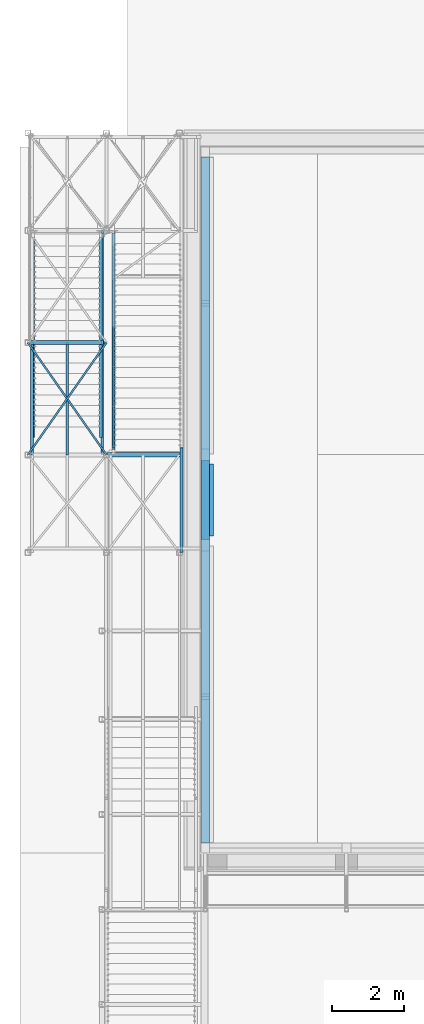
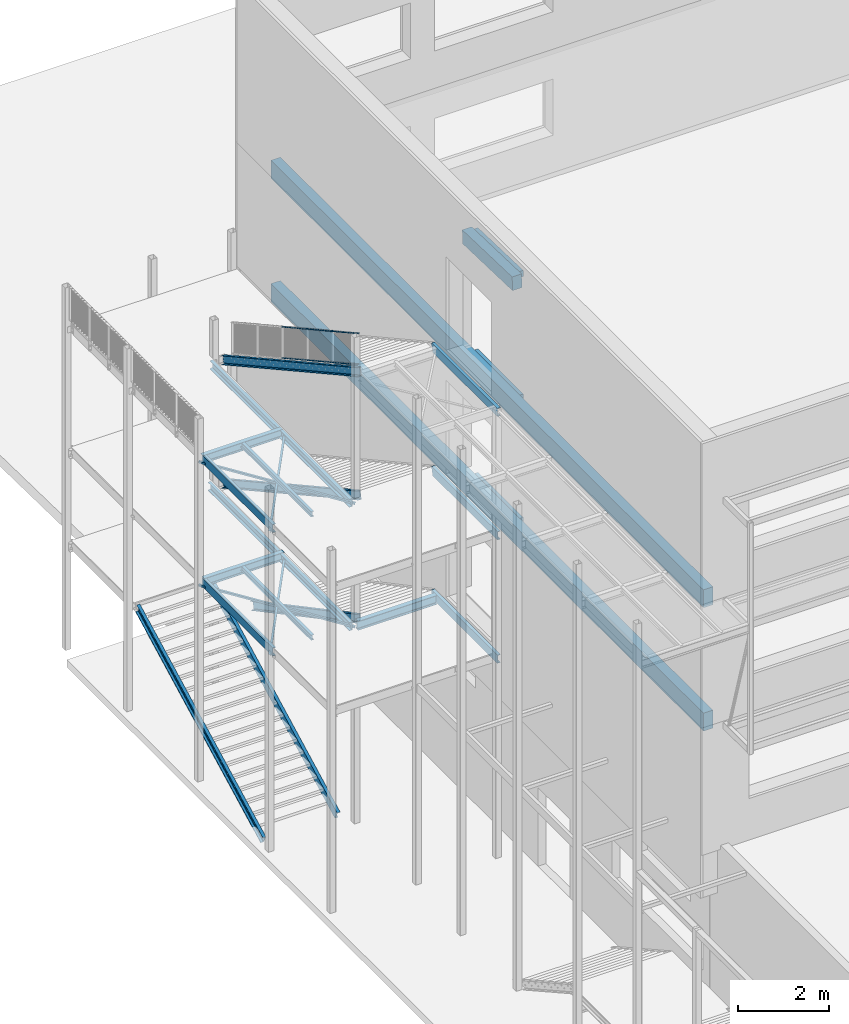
# One storey, part 26 of 78: 22 beams, 9 members, 28 elements without a shape of their own.
"""IFC2X3 building model written with IfcOpenShell, lengths in millimetres."""

from ifc_helpers import new_model, si_unit, frame, origin_with_axes, origin_2d_with_axis, place, context, subcontext, project, spatial, polyline, rectangle, i_section, l_section, u_section, outline, extrude, boolean, clip, halfspace, material, type_object, element, aggregate, save


model = new_model("IFC2X3")

# Units and contexts
model_context = context("Model", 3, precision=1e-05, world=origin_with_axes())
body_context = subcontext(model_context, "Body", "Model", "MODEL_VIEW")
ifc_project = project(units=[si_unit("LENGTHUNIT", "METRE", prefix="MILLI"), si_unit("AREAUNIT", "SQUARE_METRE"), si_unit("VOLUMEUNIT", "CUBIC_METRE"), si_unit("MASSUNIT", "GRAM", prefix="KILO"), si_unit("TIMEUNIT", "SECOND"), si_unit("PLANEANGLEUNIT", "RADIAN"), si_unit("SOLIDANGLEUNIT", "STERADIAN"), si_unit("THERMODYNAMICTEMPERATUREUNIT", "DEGREE_CELSIUS"), si_unit("LUMINOUSINTENSITYUNIT", "LUMEN")], contexts=[model_context])

# Site, building, storey
site_placement = place(None, origin_with_axes())
site = spatial("IfcSite", under=ifc_project, at=site_placement, Name="Site", CompositionType="ELEMENT")
building_placement = place(site_placement, origin_with_axes())
building = spatial("IfcBuilding", under=site, at=building_placement, Name="Undefined", CompositionType="ELEMENT")
storey_placement = place(building_placement, origin_with_axes())
storey = spatial("IfcBuildingStorey", under=building, at=storey_placement, Name="Undefined", CompositionType="ELEMENT", Elevation=0.0)

# Assembly, beam
assembly_1_placement = place(storey_placement, origin_with_axes())
assembly_1 = element("IfcElementAssembly", 1, at=assembly_1_placement, inside=storey, AssemblyPlace="NOTDEFINED", PredefinedType="RIGID_FRAME")
ifc_material_1 = material(Name="STEEL/S235JR")
beam_type_1 = type_object("IfcBeamType", Name="UPN220", PredefinedType="NOTDEFINED")
beam_1_placement = place(assembly_1_placement, frame((-31142.8599999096, 1207.9999998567, 156560.039999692), z_axis=(0.0, 0.0, 1.0), x_axis=(0.0, 1.0, 0.0)))
beam_1 = element("IfcBeam", 2, at=beam_1_placement, type_object=beam_type_1, material=ifc_material_1, Name="LIMON", ObjectType="UPN220", context=body_context, shape_type="Clipping", body=[
    clip(extrude(u_section(Depth=220.0, FlangeWidth=80.0, WebThickness=9.0, FlangeThickness=12.5, FilletRadius=12.5, EdgeRadius=6.5, FlangeSlope=0.0798299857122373, at=origin_2d_with_axis()), frame((2894.56944010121, 0.0, 0.0), z_axis=(-1.0, 0.0, 0.0), x_axis=(0.0, -1.0, 0.0)), (0.0, 0.0, 1.0), 2894.57), halfspace(frame((2894.28571429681, -39.9999997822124, 110.000000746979), z_axis=(-0.968308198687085, 0.0, 0.249758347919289), x_axis=(0.0, -1.0, 0.0)), True)),
])
aggregate(assembly_1, [beam_1])

assembly_2_placement = place(storey_placement, origin_with_axes())
assembly_2 = element("IfcElementAssembly", 3, at=assembly_2_placement, inside=storey, AssemblyPlace="NOTDEFINED", PredefinedType="RIGID_FRAME")
beam_2_placement = place(assembly_2_placement, frame((-31142.8599999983, 1207.99999985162, 159860.039999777), z_axis=(0.0, 0.0, 1.0), x_axis=(0.0, 1.0, 0.0)))
beam_2 = element("IfcBeam", 4, at=beam_2_placement, type_object=beam_type_1, material=ifc_material_1, Name="LIMON", ObjectType="UPN220", context=body_context, shape_type="Clipping", body=[
    clip(extrude(u_section(Depth=220.0, FlangeWidth=80.0, WebThickness=9.0, FlangeThickness=12.5, FilletRadius=12.5, EdgeRadius=6.5, FlangeSlope=0.0798299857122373, at=origin_2d_with_axis()), frame((2894.56944010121, 0.0, 0.0), z_axis=(-1.0, 0.0, 0.0), x_axis=(0.0, -1.0, 0.0)), (0.0, 0.0, 1.0), 2894.57), halfspace(frame((2894.28571429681, -39.9999997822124, 110.000000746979), z_axis=(-0.968308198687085, 0.0, 0.249758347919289), x_axis=(0.0, -1.0, 0.0)), True)),
])
aggregate(assembly_2, [beam_2])

assembly_3_placement = place(storey_placement, origin_with_axes())
assembly_3 = element("IfcElementAssembly", 5, at=assembly_3_placement, inside=storey, AssemblyPlace="NOTDEFINED", PredefinedType="RIGID_FRAME")
beam_3_placement = place(assembly_3_placement, frame((-31142.8600001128, 1207.99999973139, 153260.040107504), z_axis=(0.0, 0.0, 1.0), x_axis=(0.0, 1.0, 0.0)))
beam_3 = element("IfcBeam", 6, at=beam_3_placement, type_object=beam_type_1, material=ifc_material_1, Name="LIMON", ObjectType="UPN220", context=body_context, shape_type="Clipping", body=[
    clip(extrude(u_section(Depth=220.0, FlangeWidth=80.0, WebThickness=9.0, FlangeThickness=12.5, FilletRadius=12.5, EdgeRadius=6.5, FlangeSlope=0.0798299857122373, at=origin_2d_with_axis()), frame((2896.6323631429, 0.0, 0.0), z_axis=(-1.0, 0.0, 0.0), x_axis=(0.0, -1.0, 0.0)), (0.0, 0.0, 1.0), 2896.63), halfspace(frame((2896.35782756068, -40.0000001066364, 110.000000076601), z_axis=(-0.97023880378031, 0.0, 0.24215008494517), x_axis=(0.0, -1.0, 0.0)), True)),
])
aggregate(assembly_3, [beam_3])

assembly_4_placement = place(storey_placement, origin_with_axes())
assembly_4 = element("IfcElementAssembly", 7, at=assembly_4_placement, inside=storey, AssemblyPlace="NOTDEFINED", PredefinedType="RIGID_FRAME")
ifc_material_2 = material(Name="STEEL/S275JR")
beam_4_placement = place(assembly_4_placement, frame((-33331.43, 10108.0, 156560.04), z_axis=(0.0, 0.0, 1.0), x_axis=(0.0, -1.0, 0.0)))
beam_4 = element("IfcBeam", 8, at=beam_4_placement, type_object=beam_type_1, material=ifc_material_2, Name="SOLIVE", ObjectType="UPN220", context=body_context, shape_type="Clipping", body=[
    clip(extrude(u_section(Depth=220.0, FlangeWidth=80.0, WebThickness=9.0, FlangeThickness=12.5, FilletRadius=12.5, EdgeRadius=6.5, FlangeSlope=0.0798299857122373, at=origin_2d_with_axis()), frame((6200.0, 0.0, 0.0), z_axis=(-1.0, 0.0, 0.0), x_axis=(0.0, -1.0, 0.0)), (0.0, 0.0, 1.0), 6200.0), halfspace(frame((85.0, -40.0, 110.0), z_axis=(-1.0, 0.0, 0.0), x_axis=(0.0, 0.0, -1.0)), False)),
])
aggregate(assembly_4, [beam_4])

assembly_5_placement = place(storey_placement, origin_with_axes())
assembly_5 = element("IfcElementAssembly", 9, at=assembly_5_placement, inside=storey, AssemblyPlace="NOTDEFINED", PredefinedType="RIGID_FRAME")
beam_5_placement = place(assembly_5_placement, frame((-35271.43, 7008.0, 156560.04), z_axis=(0.0, 0.0, -1.0), x_axis=(0.0, -1.0, 0.0)))
beam_5 = element("IfcBeam", 10, at=beam_5_placement, type_object=beam_type_1, material=ifc_material_2, Name="SOLIVE", ObjectType="UPN220", context=body_context, shape_type="SweptSolid", body=[
    extrude(u_section(Depth=220.0, FlangeWidth=80.0, WebThickness=9.0, FlangeThickness=12.5, FilletRadius=12.5, EdgeRadius=6.5, FlangeSlope=0.0798299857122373, at=origin_2d_with_axis()), frame((3100.0, 0.0, 0.0), z_axis=(-1.0, 0.0, 0.0), x_axis=(0.0, -1.0, 0.0)), (0.0, 0.0, 1.0), 3100.0),
])
aggregate(assembly_5, [beam_5])

assembly_6_placement = place(storey_placement, origin_with_axes())
assembly_6 = element("IfcElementAssembly", 11, at=assembly_6_placement, inside=storey, AssemblyPlace="NOTDEFINED", PredefinedType="RIGID_FRAME")
beam_6_placement = place(assembly_6_placement, frame((-33331.43, 10108.0, 153260.04), z_axis=(0.0, 0.0, 1.0), x_axis=(0.0, -1.0, 0.0)))
beam_6 = element("IfcBeam", 12, at=beam_6_placement, type_object=beam_type_1, material=ifc_material_2, Name="SOLIVE", ObjectType="UPN220", context=body_context, shape_type="SweptSolid", body=[
    extrude(u_section(Depth=220.0, FlangeWidth=80.0, WebThickness=9.0, FlangeThickness=12.5, FilletRadius=12.5, EdgeRadius=6.5, FlangeSlope=0.0798299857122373, at=origin_2d_with_axis()), frame((6200.0, 0.0, 0.0), z_axis=(-1.0, 0.0, 0.0), x_axis=(0.0, -1.0, 0.0)), (0.0, 0.0, 1.0), 6200.0),
])
aggregate(assembly_6, [beam_6])

assembly_7_placement = place(storey_placement, origin_with_axes())
assembly_7 = element("IfcElementAssembly", 13, at=assembly_7_placement, inside=storey, AssemblyPlace="NOTDEFINED", PredefinedType="RIGID_FRAME")
beam_7_placement = place(assembly_7_placement, frame((-35271.43, 7008.0, 153260.04), z_axis=(0.0, 0.0, -1.0), x_axis=(0.0, -1.0, 0.0)))
beam_7 = element("IfcBeam", 14, at=beam_7_placement, type_object=beam_type_1, material=ifc_material_2, Name="SOLIVE", ObjectType="UPN220", context=body_context, shape_type="SweptSolid", body=[
    extrude(u_section(Depth=220.0, FlangeWidth=80.0, WebThickness=9.0, FlangeThickness=12.5, FilletRadius=12.5, EdgeRadius=6.5, FlangeSlope=0.0798299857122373, at=origin_2d_with_axis()), frame((3100.0, 0.0, 0.0), z_axis=(-1.0, 0.0, 0.0), x_axis=(0.0, -1.0, 0.0)), (0.0, 0.0, 1.0), 3100.0),
])
aggregate(assembly_7, [beam_7])

assembly_8_placement = place(storey_placement, origin_with_axes())
assembly_8 = element("IfcElementAssembly", 15, at=assembly_8_placement, inside=storey, Name="STAB", AssemblyPlace="NOTDEFINED", PredefinedType="RIGID_FRAME")
beam_type_2 = type_object("IfcBeamType", Name="L50*5", PredefinedType="NOTDEFINED")
beam_8_placement = place(assembly_8_placement, frame((-35386.4300000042, 3907.99999997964, 156505.04), z_axis=(0.0, 0.0, -1.0), x_axis=(0.57346234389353, 0.8192319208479, 0.0)))
beam_8 = element("IfcBeam", 16, at=beam_8_placement, type_object=beam_type_2, material=ifc_material_2, Name="STAB", ObjectType="L50*5", context=body_context, shape_type="SweptSolid", body=[
    extrude(l_section(Depth=50.0, Width=50.0, Thickness=5.0, FilletRadius=7.0, EdgeRadius=3.5, at=origin_2d_with_axis()), frame((3784.03224088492, 4.20111971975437e-13, 0.0), z_axis=(-1.0, 0.0, 0.0), x_axis=(0.0, -1.0, 0.0)), (0.0, 0.0, 1.0), 3784.03),
])
aggregate(assembly_8, [beam_8])

assembly_9_placement = place(storey_placement, origin_with_axes())
assembly_9 = element("IfcElementAssembly", 17, at=assembly_9_placement, inside=storey, Name="STAB", AssemblyPlace="NOTDEFINED", PredefinedType="RIGID_FRAME")
beam_9_placement = place(assembly_9_placement, frame((-35386.4300000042, 7007.99999997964, 156505.04), z_axis=(0.0, 0.0, -1.0), x_axis=(0.573462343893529, -0.8192319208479, 0.0)))
beam_9 = element("IfcBeam", 18, at=beam_9_placement, type_object=beam_type_2, material=ifc_material_2, Name="STAB", ObjectType="L50*5", context=body_context, shape_type="SweptSolid", body=[
    extrude(l_section(Depth=50.0, Width=50.0, Thickness=5.0, FilletRadius=7.0, EdgeRadius=3.5, at=origin_2d_with_axis()), frame((3784.03224088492, 4.20111971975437e-13, 0.0), z_axis=(-1.0, 0.0, 0.0), x_axis=(0.0, -1.0, 0.0)), (0.0, 0.0, 1.0), 3784.03),
])
aggregate(assembly_9, [beam_9])

assembly_10_placement = place(storey_placement, origin_with_axes())
assembly_10 = element("IfcElementAssembly", 19, at=assembly_10_placement, inside=storey, Name="STAB", AssemblyPlace="NOTDEFINED", PredefinedType="RIGID_FRAME")
beam_10_placement = place(assembly_10_placement, frame((-35386.4300000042, 3907.99999997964, 153205.04), z_axis=(0.0, 0.0, -1.0), x_axis=(0.57346234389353, 0.8192319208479, 0.0)))
beam_10 = element("IfcBeam", 20, at=beam_10_placement, type_object=beam_type_2, material=ifc_material_2, Name="STAB", ObjectType="L50*5", context=body_context, shape_type="SweptSolid", body=[
    extrude(l_section(Depth=50.0, Width=50.0, Thickness=5.0, FilletRadius=7.0, EdgeRadius=3.5, at=origin_2d_with_axis()), frame((3784.03224088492, 4.20111971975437e-13, 0.0), z_axis=(-1.0, 0.0, 0.0), x_axis=(0.0, -1.0, 0.0)), (0.0, 0.0, 1.0), 3784.03),
])
aggregate(assembly_10, [beam_10])

assembly_11_placement = place(storey_placement, origin_with_axes())
assembly_11 = element("IfcElementAssembly", 21, at=assembly_11_placement, inside=storey, Name="STAB", AssemblyPlace="NOTDEFINED", PredefinedType="RIGID_FRAME")
beam_11_placement = place(assembly_11_placement, frame((-35386.4300000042, 7007.99999997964, 153205.04), z_axis=(0.0, 0.0, -1.0), x_axis=(0.573462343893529, -0.8192319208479, 0.0)))
beam_11 = element("IfcBeam", 22, at=beam_11_placement, type_object=beam_type_2, material=ifc_material_2, Name="STAB", ObjectType="L50*5", context=body_context, shape_type="SweptSolid", body=[
    extrude(l_section(Depth=50.0, Width=50.0, Thickness=5.0, FilletRadius=7.0, EdgeRadius=3.5, at=origin_2d_with_axis()), frame((3784.03224088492, 4.20111971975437e-13, 0.0), z_axis=(-1.0, 0.0, 0.0), x_axis=(0.0, -1.0, 0.0)), (0.0, 0.0, 1.0), 3784.03),
])
aggregate(assembly_11, [beam_11])

assembly_12_placement = place(storey_placement, origin_with_axes())
assembly_12 = element("IfcElementAssembly", 23, at=assembly_12_placement, inside=storey, AssemblyPlace="NOTDEFINED", PredefinedType="RIGID_FRAME")
beam_type_3 = type_object("IfcBeamType", Name="IPE140", PredefinedType="NOTDEFINED")
beam_12_placement = place(assembly_12_placement, frame((-34301.43, 7008.0, 156600.04), z_axis=(0.0, 0.0, -1.0), x_axis=(0.0, -1.0, 0.0)))
beam_12 = element("IfcBeam", 24, at=beam_12_placement, type_object=beam_type_3, material=ifc_material_2, Name="SOLIVE", ObjectType="IPE140", context=body_context, shape_type="SweptSolid", body=[
    extrude(i_section(OverallWidth=73.0, OverallDepth=140.0, WebThickness=4.699999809, FlangeThickness=6.900000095, FilletRadius=7.0, at=origin_2d_with_axis()), frame((3100.0, 0.0, 0.0), z_axis=(-1.0, 0.0, 0.0), x_axis=(0.0, -1.0, 0.0)), (0.0, 0.0, 1.0), 3100.0),
])
aggregate(assembly_12, [beam_12])

assembly_13_placement = place(storey_placement, origin_with_axes())
assembly_13 = element("IfcElementAssembly", 25, at=assembly_13_placement, inside=storey, AssemblyPlace="NOTDEFINED", PredefinedType="RIGID_FRAME")
beam_13_placement = place(assembly_13_placement, frame((-34301.43, 7008.0, 153300.04), z_axis=(0.0, 0.0, -1.0), x_axis=(0.0, -1.0, 0.0)))
beam_13 = element("IfcBeam", 26, at=beam_13_placement, type_object=beam_type_3, material=ifc_material_2, Name="SOLIVE", ObjectType="IPE140", context=body_context, shape_type="SweptSolid", body=[
    extrude(i_section(OverallWidth=73.0, OverallDepth=140.0, WebThickness=4.699999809, FlangeThickness=6.900000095, FilletRadius=7.0, at=origin_2d_with_axis()), frame((3100.0, 0.0, 0.0), z_axis=(-1.0, 0.0, 0.0), x_axis=(0.0, -1.0, 0.0)), (0.0, 0.0, 1.0), 3100.0),
])
aggregate(assembly_13, [beam_13])

# Assembly, members
assembly_14_placement = place(storey_placement, origin_with_axes())
assembly_14 = element("IfcElementAssembly", 27, at=assembly_14_placement, inside=storey, Name="MAIN_COURANTE", AssemblyPlace="NOTDEFINED", PredefinedType="RIGID_FRAME")
member_type_1 = type_object("IfcMemberType", Name="PL10*50", PredefinedType="NOTDEFINED")
member_1_placement = place(assembly_14_placement, frame((-33012.8600000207, 4137.99999994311, 160013.14045306), z_axis=(1.0, 0.0, 0.0), x_axis=(0.0, 0.87524153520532, -0.48368611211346)))
solid_1 = boolean("DIFFERENCE", extrude(rectangle(XDim=20.0, YDim=50.0, at=origin_2d_with_axis()), frame((-393.498558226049, 732.719574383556, 9.34523995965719e-08), z_axis=(0.48368611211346, -0.87524153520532, 0.0), x_axis=(0.87524153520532, 0.48368611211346, 0.0)), (0.0, 0.0, 1.0), 900.0), halfspace(frame((37.3978900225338, -46.9978072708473, -24.9999999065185), z_axis=(0.0, 1.0, 0.0), x_axis=(1.0, 0.0, 0.0)), True))
solid_2 = boolean("DIFFERENCE", boolean("DIFFERENCE", extrude(rectangle(XDim=20.0, YDim=50.0, at=origin_2d_with_axis()), frame((863.297372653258, 732.719574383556, 8.54488462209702e-08), z_axis=(0.48368611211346, -0.87524153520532, 0.0), x_axis=(0.87524153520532, 0.48368611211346, 0.0)), (0.0, 0.0, 1.0), 900.0), halfspace(frame((866.060530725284, 722.719574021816, 6.70406734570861e-08), z_axis=(0.0, 1.0, 0.0), x_axis=(0.0, 0.0, -1.0)), False)), halfspace(frame((1294.19382090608, -46.9978072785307, -24.999999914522), z_axis=(0.0, 1.0, 0.0), x_axis=(1.0, 0.0, 0.0)), True))
member_1 = element("IfcMember", 28, at=member_1_placement, type_object=member_type_1, material=ifc_material_1, Name="LISSE", ObjectType="PL10*50", context=body_context, shape_type="CSG", body=[
    boolean("DIFFERENCE", boolean("DIFFERENCE", boolean("DIFFERENCE", extrude(rectangle(XDim=10.0, YDim=50.0, at=origin_2d_with_axis()), frame((1268.22134841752, -2.91038304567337e-11, 0.0), z_axis=(-1.0, 0.0, 0.0), x_axis=(0.0, -1.0, 0.0)), (0.0, 0.0, 1.0), 1268.22), solid_1), solid_2), halfspace(frame((0.0, 0.0, 50.0), z_axis=(0.87524153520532, 0.48368611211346, 0.0), x_axis=(-0.483686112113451, 0.875241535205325, 0.0)), True)),
])
member_2_placement = place(assembly_14_placement, frame((-33012.8600000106, 5247.99999992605, 159399.719399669), z_axis=(1.0, 0.0, 0.0), x_axis=(0.0, 0.87524153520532, -0.48368611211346)))
solid_3 = boolean("DIFFERENCE", boolean("DIFFERENCE", extrude(rectangle(XDim=20.0, YDim=50.0, at=origin_2d_with_axis()), frame((-404.923975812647, 732.71957444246, 7.52916093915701e-08), z_axis=(0.48368611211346, -0.87524153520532, 0.0), x_axis=(0.87524153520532, 0.48368611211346, 0.0)), (0.0, 0.0, 1.0), 900.0), halfspace(frame((-402.160817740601, 722.719574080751, 5.6883436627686e-08), z_axis=(0.0, 1.0, 0.0), x_axis=(0.0, 0.0, -1.0)), False)), halfspace(frame((25.9724724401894, -46.9978072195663, -24.9999999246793), z_axis=(0.0, 1.0, 0.0), x_axis=(1.0, 0.0, 0.0)), True))
solid_4 = boolean("DIFFERENCE", boolean("DIFFERENCE", extrude(rectangle(XDim=20.0, YDim=50.0, at=origin_2d_with_axis()), frame((851.871955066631, 732.719574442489, 6.72953319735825e-08), z_axis=(0.48368611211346, -0.87524153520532, 0.0), x_axis=(0.87524153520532, 0.48368611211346, 0.0)), (0.0, 0.0, 1.0), 900.0), halfspace(frame((854.635113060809, 722.71957422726, 5.69052645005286e-08), z_axis=(0.0, 1.0, 0.0), x_axis=(0.0, 0.0, -1.0)), False)), halfspace(frame((1282.76840332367, -46.9978072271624, -24.9999999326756), z_axis=(0.0, 1.0, 0.0), x_axis=(1.0, 0.0, 0.0)), True))
solid_5 = boolean("DIFFERENCE", boolean("DIFFERENCE", extrude(rectangle(XDim=20.0, YDim=50.0, at=origin_2d_with_axis()), frame((2108.66788594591, 732.719574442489, 5.92917785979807e-08), z_axis=(0.48368611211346, -0.87524153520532, 0.0), x_axis=(0.87524153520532, 0.48368611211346, 0.0)), (0.0, 0.0, 1.0), 900.0), halfspace(frame((2111.43104387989, 722.719574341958, 5.46351657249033e-08), z_axis=(0.0, 1.0, 0.0), x_axis=(0.0, 0.0, -1.0)), False)), halfspace(frame((2539.56433420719, -46.9978072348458, -24.9999999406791), z_axis=(0.0, 1.0, 0.0), x_axis=(1.0, 0.0, 0.0)), True))
member_2 = element("IfcMember", 29, at=member_2_placement, type_object=member_type_1, material=ifc_material_1, Name="LISSE", ObjectType="PL10*50", context=body_context, shape_type="CSG", body=[
    boolean("DIFFERENCE", boolean("DIFFERENCE", boolean("DIFFERENCE", extrude(rectangle(XDim=10.0, YDim=50.0, at=origin_2d_with_axis()), frame((2513.59186172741, 0.0, 0.0), z_axis=(-1.0, 0.0, 0.0), x_axis=(0.0, -1.0, 0.0)), (0.0, 0.0, 1.0), 2513.59), solid_3), solid_4), solid_5),
])
member_3_placement = place(assembly_14_placement, frame((-33012.8600000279, 5247.99999992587, 160231.169399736), z_axis=(1.0, 0.0, 0.0), x_axis=(0.0, -0.87524153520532, 0.483686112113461)))
member_3 = element("IfcMember", 30, at=member_3_placement, type_object=member_type_1, material=ifc_material_1, Name="MAIN_COURANTE", ObjectType="PL10*50", context=body_context, shape_type="Clipping", body=[
    clip(extrude(rectangle(XDim=10.0, YDim=50.0, at=origin_2d_with_axis()), frame((1275.28789395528, 7.07926991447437e-14, 0.0), z_axis=(-1.0, 0.0, 0.0), x_axis=(0.0, -1.0, 0.0)), (0.0, 0.0, 1.0), 1275.29), halfspace(frame((1268.22134852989, 1.97323970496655e-08, 50.0), z_axis=(-0.875241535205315, -0.483686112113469, 0.0), x_axis=(0.48368611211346, -0.87524153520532, 0.0)), True)),
])
member_4_placement = place(assembly_14_placement, frame((-33012.8599999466, 7447.99999989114, 159015.379924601), z_axis=(1.0, 0.0, 0.0), x_axis=(0.0, -0.87524153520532, 0.483686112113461)))
member_4 = element("IfcMember", 31, at=member_4_placement, type_object=member_type_1, material=ifc_material_1, Name="MAIN_COURANTE", ObjectType="PL10*50", context=body_context, shape_type="SweptSolid", body=[
    extrude(rectangle(XDim=10.0, YDim=50.0, at=origin_2d_with_axis()), frame((2513.59186172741, 0.0, 0.0), z_axis=(-1.0, 0.0, 0.0), x_axis=(0.0, -1.0, 0.0)), (0.0, 0.0, 1.0), 2513.59),
])
aggregate(assembly_14, [member_1, member_2, member_3, member_4])

# Assembly, beam
assembly_15_placement = place(storey_placement, origin_with_axes())
assembly_15 = element("IfcElementAssembly", 32, at=assembly_15_placement, inside=storey, Name="POUTRE", AssemblyPlace="NOTDEFINED", PredefinedType="NOTDEFINED")
ifc_material_3 = material(Name="TIMBER/CHENE")
beam_type_4 = type_object("IfcBeamType", Name="160*100", PredefinedType="NOTDEFINED")
beam_14_placement = place(assembly_15_placement, frame((-30313.4334564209, 1665.00276809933, 156380.033999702), z_axis=(0.0, -1.6240000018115e-06, 0.999999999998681), x_axis=(0.0, 0.999999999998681, 1.62400000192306e-06)))
beam_14 = element("IfcBeam", 33, at=beam_14_placement, type_object=beam_type_4, material=ifc_material_3, Name="POUTRE", ObjectType="160*100", context=body_context, shape_type="SweptSolid", body=[
    extrude(rectangle(XDim=100.0, YDim=160.0, at=origin_2d_with_axis()), frame((1989.99781005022, 0.0, 0.0), z_axis=(-1.0, 0.0, 0.0), x_axis=(0.0, -1.0, 0.0)), (0.0, 0.0, 1.0), 1990.0),
])
aggregate(assembly_15, [beam_14])

assembly_16_placement = place(storey_placement, origin_with_axes())
assembly_16 = element("IfcElementAssembly", 34, at=assembly_16_placement, inside=storey, Name="POUTRE", AssemblyPlace="NOTDEFINED", PredefinedType="NOTDEFINED")
beam_15_placement = place(assembly_16_placement, frame((-30313.4309812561, 1663.52133684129, 162984.734213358), z_axis=(0.0, 0.0309836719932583, 0.999519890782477), x_axis=(0.0, 0.999519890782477, -0.0309836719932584)))
beam_15 = element("IfcBeam", 35, at=beam_15_placement, type_object=beam_type_4, material=ifc_material_3, Name="POUTRE", ObjectType="160*100", context=body_context, shape_type="SweptSolid", body=[
    extrude(rectangle(XDim=100.0, YDim=160.0, at=origin_2d_with_axis()), frame((1990.00320292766, 0.0, 6.9042105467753e-15), z_axis=(-1.0, 0.0, 0.0), x_axis=(0.0, -1.0, 0.0)), (0.0, 0.0, 1.0), 1990.0),
])
aggregate(assembly_16, [beam_15])

assembly_17_placement = place(storey_placement, origin_with_axes())
assembly_17 = element("IfcElementAssembly", 36, at=assembly_17_placement, inside=storey, Name="POUTRE", AssemblyPlace="NOTDEFINED", PredefinedType="NOTDEFINED")
beam_16_placement = place(assembly_17_placement, frame((-30313.4328886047, 1664.99883936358, 159680.040771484), z_axis=(0.0, -1.6240000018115e-06, 0.999999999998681), x_axis=(0.0, 0.999999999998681, 1.62400000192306e-06)))
beam_16 = element("IfcBeam", 37, at=beam_16_placement, type_object=beam_type_4, material=ifc_material_3, Name="POUTRE", ObjectType="160*100", context=body_context, shape_type="SweptSolid", body=[
    extrude(rectangle(XDim=100.0, YDim=160.0, at=origin_2d_with_axis()), frame((1989.99781005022, 0.0, 0.0), z_axis=(-1.0, 0.0, 0.0), x_axis=(0.0, -1.0, 0.0)), (0.0, 0.0, 1.0), 1990.0),
])
aggregate(assembly_17, [beam_16])

assembly_18_placement = place(storey_placement, origin_with_axes())
assembly_18 = element("IfcElementAssembly", 38, at=assembly_18_placement, inside=storey, Name="POUTRE", AssemblyPlace="NOTDEFINED", PredefinedType="NOTDEFINED")
beam_type_5 = type_object("IfcBeamType", Name="360*240", PredefinedType="NOTDEFINED")
beam_17_placement = place(assembly_18_placement, frame((-30483.431930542, 1559.42323460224, 162887.911737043), z_axis=(0.0, 0.0309836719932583, 0.999519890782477), x_axis=(0.0, 0.999519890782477, -0.0309836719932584)))
beam_17 = element("IfcBeam", 39, at=beam_17_placement, type_object=beam_type_5, material=ifc_material_3, Name="POUTRE", ObjectType="360*240", context=body_context, shape_type="SweptSolid", body=[
    extrude(rectangle(XDim=240.0, YDim=360.0, at=origin_2d_with_axis()), frame((2191.04975325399, 0.0, -7.60173088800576e-15), z_axis=(-1.0, 0.0, 0.0), x_axis=(0.0, -1.0, 0.0)), (0.0, 0.0, 1.0), 2191.05),
])
aggregate(assembly_18, [beam_17])

# Assembly, member
assembly_19_placement = place(storey_placement, origin_with_axes())
assembly_19 = element("IfcElementAssembly", 40, at=assembly_19_placement, inside=storey, AssemblyPlace="NOTDEFINED", PredefinedType="RIGID_FRAME")
member_type_2 = type_object("IfcMemberType", Name="UPN220", PredefinedType="NOTDEFINED")
member_5_placement = place(assembly_19_placement, frame((-33022.860000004, 10020.5088134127, 153273.763431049), z_axis=(0.0, 0.48368611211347, 0.875241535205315), x_axis=(0.0, -0.87524153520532, 0.483686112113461)))
member_5 = element("IfcMember", 41, at=member_5_placement, type_object=member_type_2, material=ifc_material_1, Name="LIMON", ObjectType="UPN220", context=body_context, shape_type="CSG", body=[
    boolean("DIFFERENCE", boolean("DIFFERENCE", boolean("DIFFERENCE", boolean("DIFFERENCE", extrude(u_section(Depth=220.0, FlangeWidth=80.0, WebThickness=9.0, FlangeThickness=12.5, FilletRadius=12.5, EdgeRadius=6.5, FlangeSlope=0.0798299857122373, at=origin_2d_with_axis()), frame((6919.08850051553, 0.0, 0.0), z_axis=(-1.0, 0.0, 0.0), x_axis=(0.0, -1.0, 0.0)), (0.0, 0.0, 1.0), 7128.94), extrude(outline(polyline([(0.0, 0.0), (66.9000000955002, 0.0), (66.9000000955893, 59.5368424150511), (1.2475846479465, 23.2552443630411), (0.0, 0.0)])), frame((-41.7088787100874, 50.000000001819, 99.0018990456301), z_axis=(0.0, -1.0, 0.0), x_axis=(0.875241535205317, 0.0, -0.483686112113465)), (0.0, 0.0, 1.0), 100.0)), extrude(outline(polyline([(0.0, 0.0), (66.9000000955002, 0.0), (66.9000000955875, 31.4223441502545), (1.2475846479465, 67.7039422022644), (0.0, 0.0)])), frame((-128.965853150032, -49.999999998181, -58.8916735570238), z_axis=(0.0, 1.0, 0.0), x_axis=(0.875241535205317, 0.0, -0.483686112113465)), (0.0, 0.0, 1.0), 100.0)), halfspace(frame((6822.60647429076, -39.9999999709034, 109.999999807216), z_axis=(-0.968308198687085, 0.0, 0.249758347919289), x_axis=(0.0, -1.0, 0.0)), True)), halfspace(frame((1625.99016535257, -1.07684172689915e-09, 3096.06845789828), z_axis=(-0.875241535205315, 0.0, 0.483686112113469), x_axis=(0.0, -1.0, 0.0)), False)),
])
aggregate(assembly_19, [member_5])

assembly_20_placement = place(storey_placement, origin_with_axes())
assembly_20 = element("IfcElementAssembly", 42, at=assembly_20_placement, inside=storey, AssemblyPlace="NOTDEFINED", PredefinedType="RIGID_FRAME")
member_6_placement = place(assembly_20_placement, frame((-33022.8600000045, 10020.5088134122, 156573.76343105), z_axis=(0.0, 0.48368611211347, 0.875241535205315), x_axis=(0.0, -0.87524153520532, 0.483686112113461)))
member_6 = element("IfcMember", 43, at=member_6_placement, type_object=member_type_2, material=ifc_material_1, Name="LIMON", ObjectType="UPN220", context=body_context, shape_type="CSG", body=[
    boolean("DIFFERENCE", boolean("DIFFERENCE", boolean("DIFFERENCE", boolean("DIFFERENCE", extrude(u_section(Depth=220.0, FlangeWidth=80.0, WebThickness=9.0, FlangeThickness=12.5, FilletRadius=12.5, EdgeRadius=6.5, FlangeSlope=0.0798299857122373, at=origin_2d_with_axis()), frame((6919.08850051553, 0.0, 0.0), z_axis=(-1.0, 0.0, 0.0), x_axis=(0.0, -1.0, 0.0)), (0.0, 0.0, 1.0), 7128.94), extrude(outline(polyline([(0.0, 0.0), (66.9000000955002, 0.0), (66.9000000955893, 59.5368424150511), (1.2475846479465, 23.2552443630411), (0.0, 0.0)])), frame((-41.7088787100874, 50.000000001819, 99.0018990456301), z_axis=(0.0, -1.0, 0.0), x_axis=(0.875241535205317, 0.0, -0.483686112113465)), (0.0, 0.0, 1.0), 100.0)), extrude(outline(polyline([(0.0, 0.0), (66.9000000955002, 0.0), (66.9000000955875, 31.4223441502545), (1.2475846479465, 67.7039422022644), (0.0, 0.0)])), frame((-128.965853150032, -49.999999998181, -58.8916735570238), z_axis=(0.0, 1.0, 0.0), x_axis=(0.875241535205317, 0.0, -0.483686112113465)), (0.0, 0.0, 1.0), 100.0)), halfspace(frame((6822.60647429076, -39.9999999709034, 109.999999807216), z_axis=(-0.968308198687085, 0.0, 0.249758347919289), x_axis=(0.0, -1.0, 0.0)), True)), halfspace(frame((1625.99016535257, -1.07684172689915e-09, 3096.06845789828), z_axis=(-0.875241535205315, 0.0, 0.483686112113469), x_axis=(0.0, -1.0, 0.0)), False)),
])
aggregate(assembly_20, [member_6])

assembly_21_placement = place(storey_placement, origin_with_axes())
assembly_21 = element("IfcElementAssembly", 44, at=assembly_21_placement, inside=storey, AssemblyPlace="NOTDEFINED", PredefinedType="RIGID_FRAME")
member_7_placement = place(assembly_21_placement, frame((-35241.4299999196, 9966.13308986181, 150772.462458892), z_axis=(0.0, -0.461637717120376, 0.887068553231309), x_axis=(0.0, -0.88706855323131, -0.461637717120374)))
member_7 = element("IfcMember", 45, at=member_7_placement, type_object=member_type_2, material=ifc_material_2, Name="LIMON", ObjectType="UPN220", context=body_context, shape_type="Clipping", body=[
    clip(extrude(u_section(Depth=220.0, FlangeWidth=80.0, WebThickness=9.0, FlangeThickness=12.5, FilletRadius=12.5, EdgeRadius=6.5, FlangeSlope=0.0798299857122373, at=origin_2d_with_axis()), frame((6232.15975725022, 0.0, 0.0), z_axis=(-1.0, 0.0, 0.0), x_axis=(0.0, -1.0, 0.0)), (0.0, 0.0, 1.0), 6371.64), halfspace(frame((-1.64160519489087e-06, -39.9999999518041, 109.99999989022), z_axis=(-0.971356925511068, 0.0, -0.237625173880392), x_axis=(0.0, -1.0, 0.0)), False)),
])
aggregate(assembly_21, [member_7])

assembly_22_placement = place(storey_placement, origin_with_axes())
assembly_22 = element("IfcElementAssembly", 46, at=assembly_22_placement, inside=storey, AssemblyPlace="NOTDEFINED", PredefinedType="RIGID_FRAME")
member_8_placement = place(assembly_22_placement, frame((-33361.4300000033, 4437.78014882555, 147895.462459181), z_axis=(0.0, -0.461637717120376, 0.887068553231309), x_axis=(0.0, 0.88706855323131, 0.461637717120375)))
member_8 = element("IfcMember", 47, at=member_8_placement, type_object=member_type_2, material=ifc_material_2, Name="LIMON", ObjectType="UPN220", context=body_context, shape_type="Clipping", body=[
    clip(extrude(u_section(Depth=220.0, FlangeWidth=80.0, WebThickness=9.0, FlangeThickness=12.5, FilletRadius=12.5, EdgeRadius=6.5, FlangeSlope=0.0798299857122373, at=origin_2d_with_axis()), frame((6371.63933541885, 0.0, 3.53697034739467e-13), z_axis=(-1.0, 0.0, 0.0), x_axis=(0.0, -1.0, 0.0)), (0.0, 0.0, 1.0), 6371.64), halfspace(frame((6232.15975586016, -39.9999999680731, 109.999997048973), z_axis=(-0.971356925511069, 0.0, 0.237625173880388), x_axis=(0.0, -1.0, 0.0)), True)),
])
aggregate(assembly_22, [member_8])

assembly_23_placement = place(storey_placement, origin_with_axes())
assembly_23 = element("IfcElementAssembly", 48, at=assembly_23_placement, inside=storey, AssemblyPlace="NOTDEFINED", PredefinedType="RIGID_FRAME")
member_9_placement = place(assembly_23_placement, frame((-33022.8599999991, 8749.15590057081, 150772.940173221), z_axis=(0.0, 0.469886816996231, 0.882726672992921), x_axis=(0.0, -0.88272667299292, 0.469886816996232)))
member_9 = element("IfcMember", 49, at=member_9_placement, type_object=member_type_2, material=ifc_material_1, Name="LIMON", ObjectType="UPN220", context=body_context, shape_type="Clipping", body=[
    clip(clip(extrude(u_section(Depth=220.0, FlangeWidth=80.0, WebThickness=9.0, FlangeThickness=12.5, FilletRadius=12.5, EdgeRadius=6.5, FlangeSlope=0.0798299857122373, at=origin_2d_with_axis()), frame((5446.33812464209, 0.0, 0.0), z_axis=(-1.0, 0.0, 0.0), x_axis=(0.0, -1.0, 0.0)), (0.0, 0.0, 1.0), 5627.15), halfspace(frame((5320.43017435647, -39.9999999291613, 110.000000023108), z_axis=(-0.97023880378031, 0.0, 0.24215008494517), x_axis=(0.0, -1.0, 0.0)), True)), halfspace(frame((-5.94641824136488e-06, 2.39502696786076e-07, 109.999999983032), z_axis=(-0.97023880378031, 0.0, 0.24215008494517), x_axis=(0.0, -1.0, 0.0)), False)),
])
aggregate(assembly_23, [member_9])

# Assembly, beam
assembly_24_placement = place(storey_placement, origin_with_axes())
assembly_24 = element("IfcElementAssembly", 50, at=assembly_24_placement, inside=storey, AssemblyPlace="NOTDEFINED", PredefinedType="RIGID_FRAME")
beam_type_6 = type_object("IfcBeamType", Name="IPE240", PredefinedType="NOTDEFINED")
beam_18_placement = place(assembly_24_placement, frame((-31182.86, 3908.0, 153250.04), z_axis=(0.0, 0.0, 1.0), x_axis=(-1.0, 0.0, 0.0)))
beam_18 = element("IfcBeam", 51, at=beam_18_placement, type_object=beam_type_6, material=ifc_material_2, Name="SOLIVE", ObjectType="IPE240", context=body_context, shape_type="SweptSolid", body=[
    extrude(i_section(OverallWidth=120.0, OverallDepth=240.0, WebThickness=6.199999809, FlangeThickness=9.800000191, FilletRadius=15.0, at=origin_2d_with_axis()), frame((2000.0, 0.0, 0.0), z_axis=(-1.0, 0.0, 0.0), x_axis=(0.0, -1.0, 0.0)), (0.0, 0.0, 1.0), 2000.0),
])
aggregate(assembly_24, [beam_18])

assembly_25_placement = place(storey_placement, origin_with_axes())
assembly_25 = element("IfcElementAssembly", 52, at=assembly_25_placement, inside=storey, AssemblyPlace="NOTDEFINED", PredefinedType="RIGID_FRAME")
beam_type_7 = type_object("IfcBeamType", Name="IPE220", PredefinedType="NOTDEFINED")
beam_19_placement = place(assembly_25_placement, frame((-33291.43, 7008.0, 156560.04), z_axis=(0.0, 0.0, 1.0), x_axis=(-1.0, 0.0, 0.0)))
beam_19 = element("IfcBeam", 53, at=beam_19_placement, type_object=beam_type_7, material=ifc_material_2, Name="SOLIVE", ObjectType="IPE220", context=body_context, shape_type="SweptSolid", body=[
    extrude(i_section(OverallWidth=110.0, OverallDepth=220.0, WebThickness=5.900000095, FlangeThickness=9.199999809, FilletRadius=12.0, at=origin_2d_with_axis()), frame((2020.0, 0.0, 0.0), z_axis=(-1.0, 0.0, 0.0), x_axis=(0.0, -1.0, 0.0)), (0.0, 0.0, 1.0), 2020.0),
])
aggregate(assembly_25, [beam_19])

assembly_26_placement = place(storey_placement, origin_with_axes())
assembly_26 = element("IfcElementAssembly", 54, at=assembly_26_placement, inside=storey, AssemblyPlace="NOTDEFINED", PredefinedType="RIGID_FRAME")
beam_20_placement = place(assembly_26_placement, frame((-33257.86, 7008.0, 153260.04), z_axis=(0.0, 0.0, 1.0), x_axis=(-1.0, 0.0, 0.0)))
beam_20 = element("IfcBeam", 55, at=beam_20_placement, type_object=beam_type_7, material=ifc_material_2, Name="SOLIVE", ObjectType="IPE220", context=body_context, shape_type="SweptSolid", body=[
    extrude(i_section(OverallWidth=110.0, OverallDepth=220.0, WebThickness=5.900000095, FlangeThickness=9.199999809, FilletRadius=12.0, at=origin_2d_with_axis()), frame((2020.0, 0.0, 0.0), z_axis=(-1.0, 0.0, 0.0), x_axis=(0.0, -1.0, 0.0)), (0.0, 0.0, 1.0), 2020.0),
])
aggregate(assembly_26, [beam_20])

assembly_27_placement = place(storey_placement, origin_with_axes())
assembly_27 = element("IfcElementAssembly", 56, at=assembly_27_placement, inside=storey, Name="POUTRE", AssemblyPlace="NOTDEFINED", PredefinedType="NOTDEFINED")
beam_type_8 = type_object("IfcBeamType", Name="480*240", PredefinedType="NOTDEFINED")
beam_21_placement = place(assembly_27_placement, frame((-30483.4344057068, -6815.00067122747, 156240.041015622), z_axis=(0.0, 0.0, 1.0), x_axis=(0.0, 1.0, 0.0)))
beam_21 = element("IfcBeam", 57, at=beam_21_placement, type_object=beam_type_8, material=ifc_material_3, Name="POUTRE", ObjectType="480*240", context=body_context, shape_type="SweptSolid", body=[
    extrude(rectangle(XDim=240.0, YDim=480.0, at=origin_2d_with_axis()), frame((18950.0078100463, 0.0, 1.00320506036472e-18), z_axis=(-1.0, 0.0, 0.0), x_axis=(0.0, -1.0, 0.0)), (0.0, 0.0, 1.0), 18950.01),
])
aggregate(assembly_27, [beam_21])

assembly_28_placement = place(storey_placement, origin_with_axes())
assembly_28 = element("IfcElementAssembly", 58, at=assembly_28_placement, inside=storey, Name="POUTRE", AssemblyPlace="NOTDEFINED", PredefinedType="NOTDEFINED")
beam_22_placement = place(assembly_28_placement, frame((-30483.4338378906, -6815.00452629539, 159540.044555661), z_axis=(0.0, 0.0, 1.0), x_axis=(0.0, 1.0, 0.0)))
beam_22 = element("IfcBeam", 59, at=beam_22_placement, type_object=beam_type_8, material=ifc_material_3, Name="POUTRE", ObjectType="480*240", context=body_context, shape_type="SweptSolid", body=[
    extrude(rectangle(XDim=240.0, YDim=480.0, at=origin_2d_with_axis()), frame((18950.0078100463, 0.0, 1.00320506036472e-18), z_axis=(-1.0, 0.0, 0.0), x_axis=(0.0, -1.0, 0.0)), (0.0, 0.0, 1.0), 18950.01),
])
aggregate(assembly_28, [beam_22])

save(model, "model.ifc")
